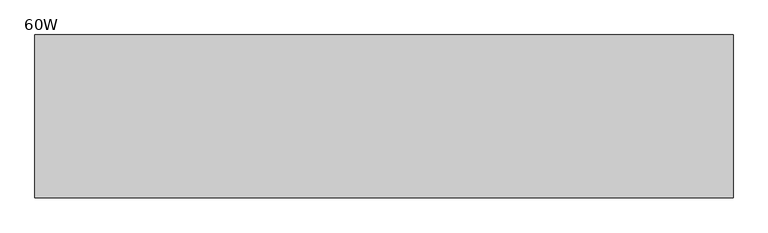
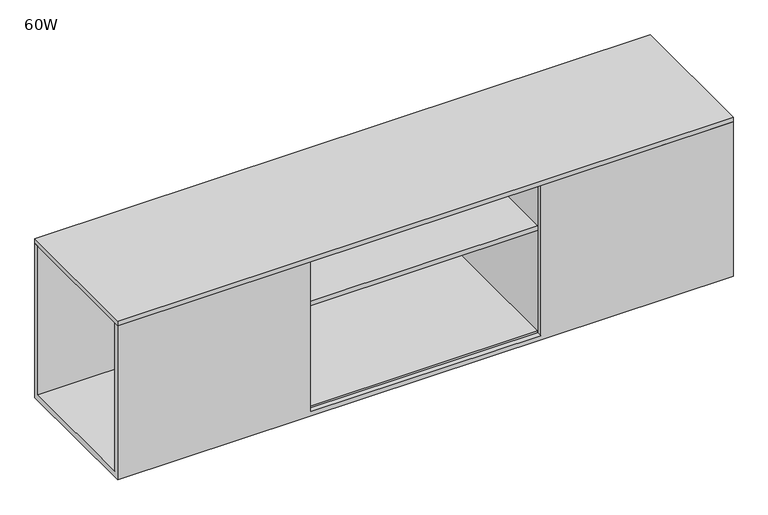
"""IFC4 building model written with IfcOpenShell, lengths in millimetres: furniture geometry, Steelcase Turnstone - Bivi - Storage - Trunk : 60W."""

from ifc_helpers import new_model, si_unit, frame, origin, place, context, project, spatial, polyline, circle_curve, outline, extrude, source, transform, mapped, element, save
from ifc_brep_helpers import plane_surface, revolved_surface, advanced_brep


def furniture_60w_d99e90af(model_context):
    return source(origin(), model_context, "Body", "SolidModel", [
        extrude(outline(polyline([(1524.0, 2.4129826), (1524.0, -353.1870174), (0.0, -353.1870174), (0.0, 2.4129826), (1524.0, 2.4129826)])), frame((0.0, 0.0, 710.1957493), z_axis=(0.0, 0.0, 1.0), x_axis=(1.0, 0.0, 0.0)), (0.0, 0.0, 1.0), 12.190317),
        extrude(outline(polyline([(476.3715042, -13.081), (1047.75, -13.081), (1047.75, -340.1059845), (476.3715042, -340.1059845), (476.3715042, -13.081)])), frame((0.0, 0.0, 585.109162), z_axis=(0.0, 0.0, 1.0), x_axis=(1.0, 0.0, 0.0)), (0.0, 0.0, 1.0), 11.4807673),
        extrude(outline(polyline([(476.3715042, -13.081), (476.3715042, -340.1059845), (452.5217972, -340.1059845), (452.5217972, -13.081), (476.3715042, -13.081)])), frame((0.0, 0.0, 317.5), z_axis=(0.0, 0.0, 1.0), x_axis=(1.0, 0.0, 0.0)), (0.0, 0.0, 1.0), 393.3189671),
        extrude(outline(polyline([(1071.599707, -13.081), (1071.599707, -340.1059845), (1047.75, -340.1059845), (1047.75, -13.081), (1071.599707, -13.081)])), frame((0.0, 0.0, 317.5), z_axis=(0.0, 0.0, 1.0), x_axis=(1.0, 0.0, 0.0)), (0.0, 0.0, 1.0), 393.3189671),
        advanced_brep(
        [(1524.0, 2.4129826, 710.8189671), (0.0, 2.4129826, 710.8189671), (0.0, -10.7950174, 710.8189671), (1524.0, -10.7950174, 710.8189671), (0.0, -353.1870174, 710.8189671), (476.3715042, -353.1870174, 710.8189671), (476.3715042, -340.1059845, 710.8189671), (0.0, -340.1059845, 710.8189671), (1047.75, -353.1870174, 710.8189671), (1524.0, -353.1870174, 710.8189671), (1524.0, -340.1059845, 710.8189671), (1047.75, -340.1059845, 710.8189671), (1524.0, 2.4129826, 306.4508803), (1524.0, -353.1870174, 306.4508803), (0.0, -353.1870174, 306.4508803), (0.0, 2.4129826, 306.4508803), (741.6414208, 2.4129826, 647.2628104), (782.4459185, 2.4129826, 647.2628104), (0.0, -340.1059845, 321.552397), (0.0, -10.7950174, 321.552397), (1047.75, -353.1870174, 317.5), (476.3715042, -353.1870174, 317.5), (1524.0, -10.7950174, 321.552397), (1524.0, -340.1059845, 321.552397), (476.3715042, -340.1059845, 317.5), (1047.75, -340.1059845, 317.5), (1047.75, -340.1059845, 321.552397), (476.3715042, -340.1059845, 321.552397), (741.6414208, -10.7950174, 647.2628104), (782.4459185, -10.7950174, 647.2628104)],
        [
            (0, 1),
            (1, 2),
            (2, 3),
            (3, 0),
            (4, 5),
            (5, 6),
            (6, 7),
            (7, 4),
            (8, 9),
            (9, 10),
            (10, 11),
            (11, 8),
            (12, 13),
            (13, 14),
            (14, 15),
            (15, 12),
            (0, 12),
            (15, 1),
            (16, 17, circle_curve(frame((762.0436697, 2.4129826, 647.2628104), z_axis=(0.0, -1.0, 0.0), x_axis=(1.0, 0.0, 0.0)), 20.4022489)),
            (17, 16, circle_curve(frame((762.0436697, 2.4129826, 647.2628104), z_axis=(0.0, -1.0, 0.0), x_axis=(1.0, 0.0, 0.0)), 20.4022489)),
            (14, 4),
            (7, 18),
            (18, 19),
            (19, 2),
            (13, 9),
            (8, 20),
            (20, 21),
            (21, 5),
            (3, 22),
            (22, 23),
            (23, 10),
            (24, 25),
            (25, 26),
            (26, 27),
            (27, 24),
            (21, 24),
            (27, 6),
            (20, 25),
            (11, 26),
            (16, 28),
            (28, 29, circle_curve(frame((762.0436697, -10.7950174, 647.2628104), z_axis=(0.0, -1.0, 0.0), x_axis=(1.0, 0.0, 0.0)), 20.4022489)),
            (29, 17),
            (29, 28, circle_curve(frame((762.0436697, -10.7950174, 647.2628104), z_axis=(0.0, -1.0, 0.0), x_axis=(1.0, 0.0, 0.0)), 20.4022489)),
            (23, 26),
            (27, 18),
            (22, 19),
        ],
        [
            plane_surface(frame((0.0, 2.4129826, 710.8189671), z_axis=(0.0, 0.0, 1.0), x_axis=(-1.0, 0.0, 0.0))),
            plane_surface(frame((0.0, 2.4129826, 306.4508803), z_axis=(0.0, 0.0, -1.0), x_axis=(1.0, 0.0, 0.0))),
            plane_surface(frame((1524.0, 2.4129826, 710.8189671), z_axis=(0.0, 1.0, 0.0), x_axis=(0.0, 0.0, -1.0))),
            plane_surface(frame((0.0, 2.4129826, 710.8189671), z_axis=(-1.0, 0.0, 0.0), x_axis=(0.0, 0.0, -1.0))),
            plane_surface(frame((0.0, -353.1870174, 710.8189671), z_axis=(0.0, -1.0, 0.0), x_axis=(0.0, 0.0, -1.0))),
            plane_surface(frame((1524.0, -353.1870174, 710.8189671), z_axis=(1.0, 0.0, 0.0), x_axis=(0.0, 0.0, -1.0))),
            plane_surface(frame((476.3715042, -340.1059845, 710.8189671), z_axis=(0.0, -1.0, 0.0), x_axis=(1.0, 0.0, 0.0))),
            plane_surface(frame((476.3715042, -353.1870174, 710.8189671), z_axis=(1.0, 0.0, 0.0), x_axis=(0.0, 1.0, 0.0))),
            plane_surface(frame((476.3715042, -353.1870174, 317.5), z_axis=(0.0, 0.0, 1.0), x_axis=(0.0, 1.0, 0.0))),
            plane_surface(frame((1047.75, -353.1870174, 317.5), z_axis=(-1.0, 0.0, 0.0), x_axis=(0.0, 1.0, 0.0))),
            revolved_surface(polyline([(782.4459186, -10.7950174, 647.2628104), (782.4459186, 2.4129826, 647.2628104)]), (762.0436697, 2.4129826, 647.2628104), (0.0, -1.0, 0.0)),
            plane_surface(frame((1524.0, -340.1059845, 710.8189671), z_axis=(0.0, 1.0, 0.0), x_axis=(-1.0, 0.0, 0.0))),
            plane_surface(frame((1524.0, -340.1059845, 321.552397), z_axis=(0.0, 0.0, 1.0), x_axis=(-1.0, 0.0, 0.0))),
            plane_surface(frame((1524.0, -10.7950174, 321.552397), z_axis=(0.0, -1.0, 0.0), x_axis=(-1.0, 0.0, 0.0))),
        ],
        [
            (0, [[1, 2, 3, 4]]),
            (0, [[5, 6, 7, 8]]),
            (0, [[9, 10, 11, 12]]),
            (1, [[13, 14, 15, 16]]),
            (2, [[-1, 17, -16, 18], [19, 20]]),
            (3, [[-15, 21, -8, 22, 23, 24, -2, -18]]),
            (4, [[-14, 25, -9, 26, 27, 28, -5, -21]]),
            (5, [[-13, -17, -4, 29, 30, 31, -10, -25]]),
            (6, [[32, 33, 34, 35]]),
            (7, [[36, -35, 37, -6, -28]]),
            (8, [[-32, -36, -27, 38]]),
            (9, [[-38, -26, -12, 39, -33]]),
            (10, [[-19, 40, 41, 42]]),
            (10, [[-20, -42, 43, -40]]),
            (11, [[44, -39, -11, -31]]),
            (11, [[45, -22, -7, -37]]),
            (12, [[46, -23, -45, -34, -44, -30]]),
            (13, [[-46, -29, -3, -24], [-41, -43]]),
        ],
    ),
    ])


if __name__ == "__main__":
    model = new_model("IFC4")
    model_context = context("Model", 3, world=origin())
    ifc_project = project(units=[si_unit("LENGTHUNIT", "METRE", prefix="MILLI")], contexts=[model_context])
    site = spatial("IfcSite", under=ifc_project)
    building = spatial("IfcBuilding", under=site)
    placement = place(None, origin())
    furniture_60w_shape = furniture_60w_d99e90af(model_context)
    element("IfcFurniture", 1, ObjectType="Steelcase Turnstone - Bivi - Storage - Trunk : 60W", at=placement, inside=building, context=model_context, shape_type="MappedRepresentation", body=[
        mapped(furniture_60w_shape, transform((0.0, 0.0, 0.0), x_axis=(1.0, 0.0, 0.0), y_axis=(0.0, 1.0, 0.0), z_axis=(0.0, 0.0, 1.0))),
    ])
    save(model, "model.ifc")
